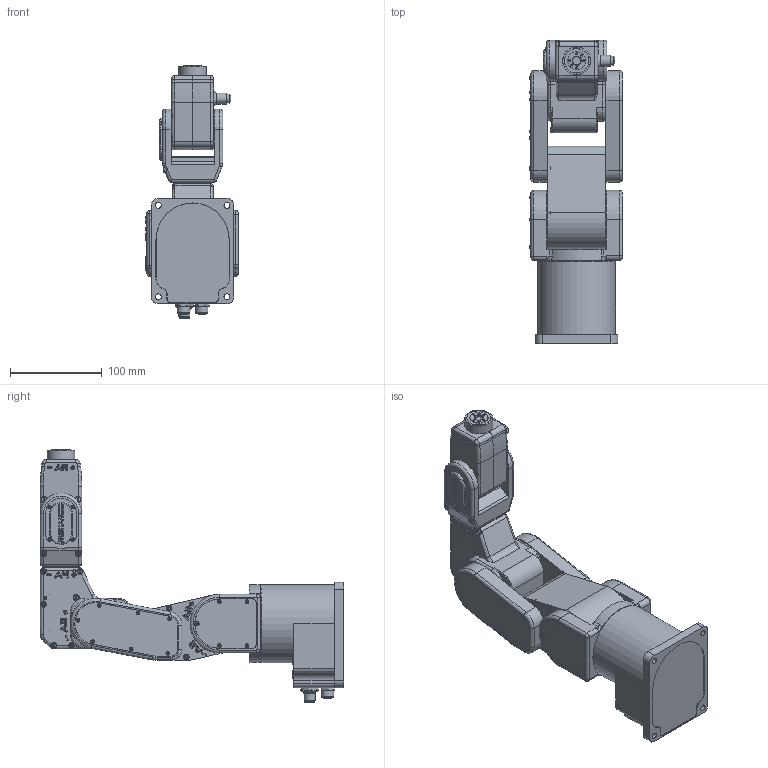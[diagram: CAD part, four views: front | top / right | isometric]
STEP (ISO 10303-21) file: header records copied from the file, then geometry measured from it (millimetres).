
FILE_DESCRIPTION(/* description */ (''),/* implementation_level */ '2;1');
FILE_NAME(/* name */ 'C:\SVN\Mechanical\Meca500\Meca500 Step files\Meca500 - Assembly simple.stp',/* time_stamp */ '2018-03-09T15:24:48-05:00',/* author */ ('Jonathan'),/* organization */ (''),/* preprocessor_version */ 'ST-DEVELOPER v16.13',/* originating_system */ 'Autodesk Inventor 2018',/* authorisation */ '');
FILE_SCHEMA (('AUTOMOTIVE_DESIGN { 1 0 10303 214 3 1 1 }'));
Products named in the file (7): Assembly1; Axis 1 - Base assembly simple; Axis 2 - Hip support simple; Axis 3 - Lower arm simple; A⁮xis 4 - Elbow simple; Axis 5 - Wrist support simple; Axis 6 - Wrist simple v3
Assembly tree (6 placements, depth 2):
  Assembly1
    Axis 1 - Base assembly simple
    Axis 2 - Hip support simple
    Axis 3 - Lower arm simple
    A⁮xis 4 - Elbow simple
    Axis 5 - Wrist support simple
    Axis 6 - Wrist simple v3
Bounding box: 101.38 x 331.01 x 276 mm (x, y, z)
Volume: 2194621.7 mm3; surface area: 231767.6 mm2
Topology: 10 solids, 49 shells, 7813 faces, 19988 edges, 12720 vertices
Faces by surface type: plane 3865, bspline 2656, cylinder 989, torus 141, cone 140, sphere 22
Full cylindrical faces by diameter (mm): 1.092 x8, 1.575 x2, 1.6 x8, 1.84 x16, 2 x6, 2.464 x8, 3 x31, 3.2 x20, 3.251 x5, 4 x16, 4.2 x4, 5.35 x8, 5.5 x25, 6 x22, 6.5 x4, 7 x12, 7.5 x12, 9 x1, 10 x1, 10.5 x1, 12 x2, 13.525 x2, 20 x1, 24 x1, 26 x1, 26.5 x1, 27.768 x1, 28 x1, 30 x3, 30.5 x2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
Entity records: 281440 total; most frequent: CARTESIAN_POINT 104607, ORIENTED_EDGE 38756, DIRECTION 26481, EDGE_CURVE 19378, VERTEX_POINT 12538, LINE 11905, VECTOR 11905, EDGE_LOOP 8840
